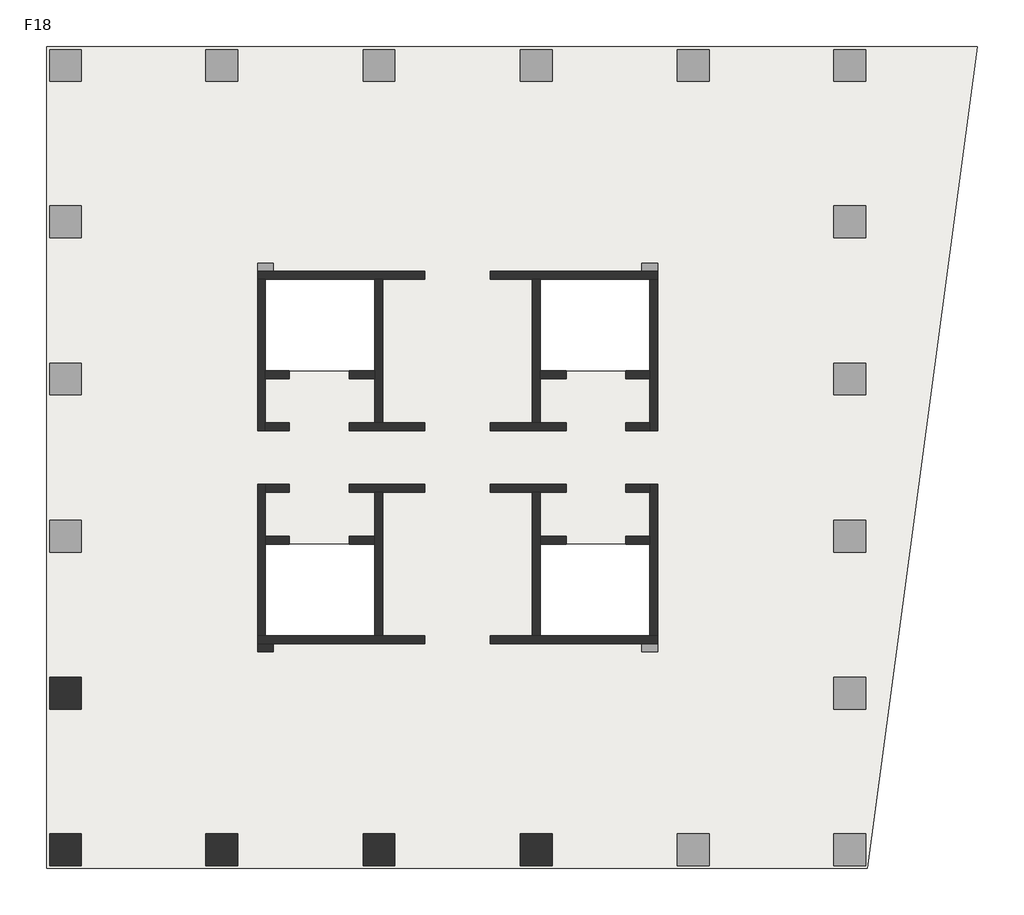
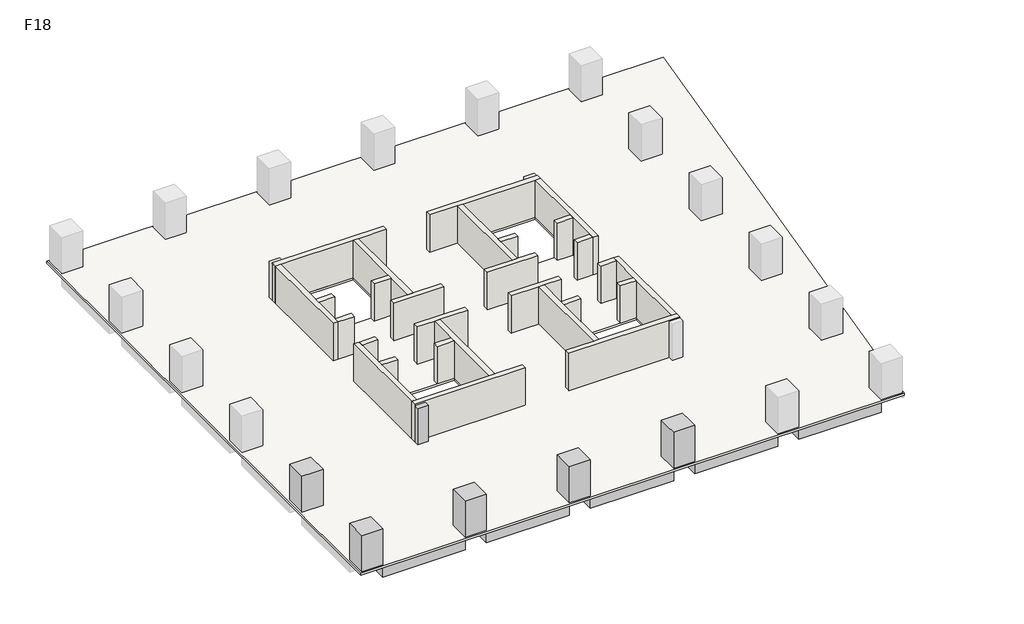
# One storey, part 1 of 2: 28 walls, 6 columns, 5 beams, 1 slab.
"""IFC4 building model written with IfcOpenShell, lengths in millimetres."""

from ifc_helpers import new_model, si_unit, frame, origin, place, context, project, spatial, polyline, outline, extrude, faceted_brep, element, save

model = new_model("IFC4")

# Units and contexts
model_context = context("Model", 3, world=origin())
ifc_project = project(units=[si_unit("LENGTHUNIT", "METRE", prefix="MILLI")], contexts=[model_context])

# Site, building, storey
site = spatial("IfcSite", under=ifc_project)
building = spatial("IfcBuilding", under=site)
storey = spatial("IfcBuildingStorey", under=building, Name="F18", Elevation=72000.0)

# Beams
placement = place(None, origin())
element("IfcBeam", 1, ObjectType="混凝土 - 矩形梁 : KL(5)-800x1000", at=placement, inside=storey, context=model_context, shape_type="SweptSolid", body=[
    extrude(outline(polyline([(-12472.6742169, -13948.9501342), (-12472.6742169, -13148.9501342), (-6222.6742169, -13148.9501342), (-6222.6742169, -13948.9501342), (-12472.6742169, -13948.9501342)])), frame((0.0, 0.0, 71000.0), z_axis=(0.0, 0.0, 1.0), x_axis=(1.0, 0.0, 0.0)), (0.0, 0.0, 1.0), 840.0),
    extrude(outline(polyline([(25327.3257831, -13148.9501342), (25327.3257831, -13948.9501342), (19077.3257831, -13948.9501342), (19077.3257831, -13148.9501342), (25327.3257831, -13148.9501342)])), frame((0.0, 0.0, 71000.0), z_axis=(0.0, 0.0, 1.0), x_axis=(1.0, 0.0, 0.0)), (0.0, 0.0, 1.0), 840.0),
    extrude(outline(polyline([(-4622.6742169, -13948.9501342), (-4622.6742169, -13148.9501342), (1677.3257831, -13148.9501342), (1677.3257831, -13948.9501342), (-4622.6742169, -13948.9501342)])), frame((0.0, 0.0, 71000.0), z_axis=(0.0, 0.0, 1.0), x_axis=(1.0, 0.0, 0.0)), (0.0, 0.0, 1.0), 840.0),
    extrude(outline(polyline([(3277.3257831, -13948.9501342), (3277.3257831, -13148.9501342), (9577.3257831, -13148.9501342), (9577.3257831, -13948.9501342), (3277.3257831, -13948.9501342)])), frame((0.0, 0.0, 71000.0), z_axis=(0.0, 0.0, 1.0), x_axis=(1.0, 0.0, 0.0)), (0.0, 0.0, 1.0), 840.0),
    extrude(outline(polyline([(11177.3257831, -13948.9501342), (11177.3257831, -13148.9501342), (17477.3257831, -13148.9501342), (17477.3257831, -13948.9501342), (11177.3257831, -13948.9501342)])), frame((0.0, 0.0, 71000.0), z_axis=(0.0, 0.0, 1.0), x_axis=(1.0, 0.0, 0.0)), (0.0, 0.0, 1.0), 840.0),
])
element("IfcBeam", 2, ObjectType="混凝土 - 矩形梁 : L1-800x500", at=placement, inside=storey, context=model_context, shape_type="Brep", body=[
    faceted_brep([(-12472.6742169, -5512.1353397, 71500.0), (-3746.9473979, -3341.556529, 71500.0), (-3173.6696907, -3198.9501342, 71500.0), (-3173.6696907, -3198.9501342, 71840.0), (-3746.9473979, -3341.556529, 71840.0), (-12472.6742169, -5512.1353397, 71840.0), (-3622.6742169, -3198.9501342, 71500.0), (-12472.6742169, -4687.7549784, 71500.0), (-3622.6742169, -2486.2624411, 71500.0), (-3622.6742169, -2798.9501342, 71500.0), (-12472.6742169, -4687.7549784, 71840.0), (-3622.6742169, -2486.2624411, 71840.0), (-3622.6742169, -3198.9501342, 71840.0)], [[[0, 1, 2, 3, 4, 5]], [[6, 2, 1, 0, 7, 8, 9]], [[8, 7, 10, 11]], [[2, 6, 12, 3]], [[9, 8, 11, 12, 6]], [[7, 0, 5, 10]], [[5, 4, 3, 12, 11, 10]]]),
])
element("IfcBeam", 3, ObjectType="混凝土 - 矩形梁 : L1-800x500", at=placement, inside=storey, context=model_context, shape_type="SweptSolid", body=[
    extrude(outline(polyline([(-3746.9473979, -3341.556529), (-3173.6696907, -3198.9501342), (-2898.7618154, -3198.9501342), (-4843.6893517, -12348.9501342), (-5661.5624638, -12348.9501342), (-3746.9473979, -3341.556529)])), frame((0.0, 0.0, 71500.0), z_axis=(0.0, 0.0, 1.0), x_axis=(1.0, 0.0, 0.0)), (0.0, 0.0, 1.0), 340.0),
])
element("IfcBeam", 4, ObjectType="混凝土 - 矩形梁 : L1-800x500", at=placement, inside=storey, context=model_context, shape_type="SweptSolid", body=[
    extrude(outline(polyline([(2877.3257831, -12348.9501342), (2077.3257831, -12348.9501342), (2077.3257831, -2798.9501342), (2877.3257831, -2798.9501342), (2877.3257831, -12348.9501342)])), frame((0.0, 0.0, 71500.0), z_axis=(0.0, 0.0, 1.0), x_axis=(1.0, 0.0, 0.0)), (0.0, 0.0, 1.0), 340.0),
])
element("IfcBeam", 5, ObjectType="混凝土 - 矩形梁 : L1-800x500", at=placement, inside=storey, context=model_context, shape_type="SweptSolid", body=[
    extrude(outline(polyline([(10777.3257831, -12348.9501342), (9977.3257831, -12348.9501342), (9977.3257831, -2798.9501342), (10777.3257831, -2798.9501342), (10777.3257831, -12348.9501342)])), frame((0.0, 0.0, 71500.0), z_axis=(0.0, 0.0, 1.0), x_axis=(1.0, 0.0, 0.0)), (0.0, 0.0, 1.0), 340.0),
])

# Columns
element("IfcColumn", 6, ObjectType="混凝土 - 矩形 - 柱 : Z1-1600x1600", at=placement, inside=storey, context=model_context, shape_type="Brep", body=[
    faceted_brep([(-12472.6742169, -4498.9501342, 72000.0), (-12472.6742169, -6098.9501342, 72000.0), (-14072.6742169, -6098.9501342, 72000.0), (-14072.6742169, -4498.9501342, 72000.0), (-12472.6742169, -4498.9501342, 74900.0), (-12472.6742169, -6098.9501342, 74900.0), (-13272.6742169, -6098.9501342, 74900.0), (-14072.6742169, -6098.9501342, 74900.0), (-14072.6742169, -6098.9501342, 74000.0), (-14072.6742169, -4498.9501342, 74900.0), (-14072.6742169, -4498.9501342, 74000.0), (-13272.6742169, -4498.9501342, 74900.0)], [[[0, 1, 2, 3]], [[1, 0, 4, 5]], [[2, 1, 5, 6, 7, 8]], [[3, 2, 8, 7, 9, 10]], [[0, 3, 10, 9, 11, 4]], [[5, 4, 11, 9, 7, 6]]]),
])
element("IfcColumn", 7, ObjectType="混凝土 - 矩形 - 柱 : Z1-1600x1600", at=placement, inside=storey, context=model_context, shape_type="SweptSolid", body=[
    extrude(outline(polyline([(-12472.6742169, -12348.9501342), (-12472.6742169, -13948.9501342), (-14072.6742169, -13948.9501342), (-14072.6742169, -12348.9501342), (-12472.6742169, -12348.9501342)])), frame((0.0, 0.0, 72000.0), z_axis=(0.0, 0.0, 1.0), x_axis=(1.0, 0.0, 0.0)), (0.0, 0.0, 1.0), 2900.0),
])
element("IfcColumn", 8, ObjectType="混凝土 - 矩形 - 柱 : Z1-1600x1600", at=placement, inside=storey, context=model_context, shape_type="Brep", body=[
    faceted_brep([(-4622.6742169, -12348.9501342, 72000.0), (-4622.6742169, -13948.9501342, 72000.0), (-6222.6742169, -13948.9501342, 72000.0), (-6222.6742169, -12348.9501342, 72000.0), (-4622.6742169, -12348.9501342, 74900.0), (-4622.6742169, -13148.9501342, 74900.0), (-4622.6742169, -13948.9501342, 74900.0), (-4622.6742169, -13948.9501342, 74000.0), (-6222.6742169, -13948.9501342, 74900.0), (-6222.6742169, -13948.9501342, 74000.0), (-6222.6742169, -13148.9501342, 74900.0), (-6222.6742169, -12348.9501342, 74900.0)], [[[0, 1, 2, 3]], [[1, 0, 4, 5, 6, 7]], [[2, 1, 7, 6, 8, 9]], [[3, 2, 9, 8, 10, 11]], [[0, 3, 11, 4]], [[6, 5, 4, 11, 10, 8]]]),
])
element("IfcColumn", 9, ObjectType="混凝土 - 矩形 - 柱 : Z1-1600x1600", at=placement, inside=storey, context=model_context, shape_type="Brep", body=[
    faceted_brep([(3277.3257831, -12348.9501342, 72000.0), (3277.3257831, -13948.9501342, 72000.0), (1677.3257831, -13948.9501342, 72000.0), (1677.3257831, -12348.9501342, 72000.0), (3277.3257831, -12348.9501342, 74900.0), (3277.3257831, -13148.9501342, 74900.0), (3277.3257831, -13948.9501342, 74900.0), (3277.3257831, -13948.9501342, 74000.0), (1677.3257831, -13948.9501342, 74900.0), (1677.3257831, -13948.9501342, 74000.0), (1677.3257831, -13148.9501342, 74900.0), (1677.3257831, -12348.9501342, 74900.0)], [[[0, 1, 2, 3]], [[1, 0, 4, 5, 6, 7]], [[2, 1, 7, 6, 8, 9]], [[3, 2, 9, 8, 10, 11]], [[0, 3, 11, 4]], [[6, 5, 4, 11, 10, 8]]]),
])
element("IfcColumn", 10, ObjectType="混凝土 - 矩形 - 柱 : Z1-1600x1600", at=placement, inside=storey, context=model_context, shape_type="Brep", body=[
    faceted_brep([(11177.3257831, -12348.9501342, 72000.0), (11177.3257831, -13948.9501342, 72000.0), (9577.3257831, -13948.9501342, 72000.0), (9577.3257831, -12348.9501342, 72000.0), (11177.3257831, -12348.9501342, 74900.0), (11177.3257831, -13148.9501342, 74900.0), (11177.3257831, -13948.9501342, 74900.0), (11177.3257831, -13948.9501342, 74000.0), (9577.3257831, -13948.9501342, 74900.0), (9577.3257831, -13948.9501342, 74000.0), (9577.3257831, -13148.9501342, 74900.0), (9577.3257831, -12348.9501342, 74900.0)], [[[0, 1, 2, 3]], [[1, 0, 4, 5, 6, 7]], [[2, 1, 7, 6, 8, 9]], [[3, 2, 9, 8, 10, 11]], [[0, 3, 11, 4]], [[6, 5, 4, 11, 10, 8]]]),
])
element("IfcColumn", 11, ObjectType="混凝土 - 矩形 - 柱 : Z2-800x800", at=placement, inside=storey, context=model_context, shape_type="SweptSolid", body=[
    extrude(outline(polyline([(-2822.6742169, -3198.9501342), (-3622.6742169, -3198.9501342), (-3622.6742169, -2798.9501342), (-2822.6742169, -2798.9501342), (-2822.6742169, -3198.9501342)])), frame((0.0, 0.0, 72000.0), z_axis=(0.0, 0.0, 1.0), x_axis=(1.0, 0.0, 0.0)), (0.0, 0.0, 1.0), 2900.0),
])

# Slab
element("IfcSlab", 12, ObjectType="LB-160", at=placement, inside=storey, context=model_context, shape_type="Brep", body=[
    faceted_brep([(32549.4477343, 27201.0498658, 71840.0), (32422.0087099, 26251.0498658, 71840.0), (27029.3257831, -13948.9501342, 71840.0), (27011.0393465, -14085.2672073, 71840.0), (-14222.6742169, -14085.2672073, 71840.0), (-14222.6742169, 27201.0498658, 71840.0), (2277.3257831, 15501.0498658, 71840.0), (-3222.6742169, 15501.0498658, 71840.0), (-3222.6742169, 10901.0498658, 71840.0), (2277.3257831, 10901.0498658, 71840.0), (2277.3257831, 2201.0498658, 71840.0), (-3222.6742169, 2201.0498658, 71840.0), (-3222.6742169, -2398.9501342, 71840.0), (2277.3257831, -2398.9501342, 71840.0), (16077.3257831, 2201.0498658, 71840.0), (10577.3257831, 2201.0498658, 71840.0), (10577.3257831, -2398.9501342, 71840.0), (16077.3257831, -2398.9501342, 71840.0), (16077.3257831, 15501.0498658, 71840.0), (10577.3257831, 15501.0498658, 71840.0), (10577.3257831, 10901.0498658, 71840.0), (16077.3257831, 10901.0498658, 71840.0), (32549.4477343, 27201.0498658, 72000.0), (-14222.6742169, 27201.0498658, 72000.0), (-14222.6742169, -14085.2672073, 72000.0), (27011.0393465, -14085.2672073, 72000.0), (2277.3257831, 15501.0498658, 72000.0), (2277.3257831, 10901.0498658, 72000.0), (-3222.6742169, 10901.0498658, 72000.0), (-3222.6742169, 15501.0498658, 72000.0), (2277.3257831, 2201.0498658, 72000.0), (2277.3257831, -2398.9501342, 72000.0), (-3222.6742169, -2398.9501342, 72000.0), (-3222.6742169, 2201.0498658, 72000.0), (16077.3257831, 2201.0498658, 72000.0), (16077.3257831, -2398.9501342, 72000.0), (10577.3257831, -2398.9501342, 72000.0), (10577.3257831, 2201.0498658, 72000.0), (16077.3257831, 15501.0498658, 72000.0), (16077.3257831, 10901.0498658, 72000.0), (10577.3257831, 10901.0498658, 72000.0), (10577.3257831, 15501.0498658, 72000.0)], [[[0, 1, 2, 3, 4, 5], [6, 7, 8, 9], [10, 11, 12, 13], [14, 15, 16, 17], [18, 19, 20, 21]], [[22, 23, 24, 25], [26, 27, 28, 29], [30, 31, 32, 33], [34, 35, 36, 37], [38, 39, 40, 41]], [[3, 2, 1, 0, 22, 25]], [[4, 3, 25, 24]], [[5, 4, 24, 23]], [[0, 5, 23, 22]], [[7, 6, 26, 29]], [[8, 7, 29, 28]], [[9, 8, 28, 27]], [[6, 9, 27, 26]], [[11, 10, 30, 33]], [[12, 11, 33, 32]], [[13, 12, 32, 31]], [[10, 13, 31, 30]], [[15, 14, 34, 37]], [[16, 15, 37, 36]], [[17, 16, 36, 35]], [[14, 17, 35, 34]], [[19, 18, 38, 41]], [[20, 19, 41, 40]], [[21, 20, 40, 39]], [[18, 21, 39, 38]]]),
])

# Walls
element("IfcWall", 13, ObjectType="剪力墙-400", at=placement, inside=storey, context=model_context, shape_type="Brep", body=[
    faceted_brep([(-3622.6742169, 15501.0498658, 72000.0), (-3222.6742169, 15501.0498658, 72000.0), (2277.3257831, 15501.0498658, 72000.0), (2677.3257831, 15501.0498658, 72000.0), (4777.3257831, 15501.0498658, 72000.0), (4777.3257831, 15501.0498658, 75000.0), (2677.3257831, 15501.0498658, 75000.0), (2277.3257831, 15501.0498658, 75000.0), (-3222.6742169, 15501.0498658, 75000.0), (-3622.6742169, 15501.0498658, 75000.0), (-3622.6742169, 15901.0498658, 72000.0), (-3622.6742169, 15901.0498658, 74900.0), (-3622.6742169, 15901.0498658, 75000.0), (4777.3257831, 15901.0498658, 75000.0), (4777.3257831, 15901.0498658, 72000.0), (-2822.6742169, 15901.0498658, 72000.0)], [[[0, 1, 2, 3, 4, 5, 6, 7, 8, 9]], [[10, 11, 12, 13, 14, 15]], [[4, 3, 2, 1, 0, 10, 15, 14]], [[5, 4, 14, 13]], [[9, 8, 7, 6, 5, 13, 12]], [[0, 9, 12, 11, 10]]]),
])
element("IfcWall", 14, ObjectType="剪力墙-400", at=placement, inside=storey, context=model_context, shape_type="Brep", body=[
    faceted_brep([(2277.3257831, 15501.0498658, 72000.0), (2277.3257831, 10901.0498658, 72000.0), (2277.3257831, 10501.0498658, 72000.0), (2277.3257831, 8301.0498658, 72000.0), (2277.3257831, 8301.0498658, 75000.0), (2277.3257831, 10501.0498658, 75000.0), (2277.3257831, 10901.0498658, 75000.0), (2277.3257831, 15501.0498658, 75000.0), (2677.3257831, 15501.0498658, 72000.0), (2677.3257831, 15501.0498658, 75000.0), (2677.3257831, 8301.0498658, 75000.0), (2677.3257831, 8301.0498658, 72000.0)], [[[0, 1, 2, 3, 4, 5, 6, 7]], [[8, 9, 10, 11]], [[3, 2, 1, 0, 8, 11]], [[7, 6, 5, 4, 10, 9]], [[0, 7, 9, 8]], [[4, 3, 11, 10]]]),
])
element("IfcWall", 15, ObjectType="剪力墙-400", at=placement, inside=storey, context=model_context, shape_type="Brep", body=[
    faceted_brep([(-3622.6742169, 15501.0498658, 72000.0), (-3622.6742169, 7901.0498658, 72000.0), (-3622.6742169, 7901.0498658, 75000.0), (-3622.6742169, 15501.0498658, 75000.0), (-3222.6742169, 15501.0498658, 72000.0), (-3222.6742169, 15501.0498658, 75000.0), (-3222.6742169, 10901.0498658, 75000.0), (-3222.6742169, 10501.0498658, 75000.0), (-3222.6742169, 8301.0498658, 75000.0), (-3222.6742169, 7901.0498658, 75000.0), (-3222.6742169, 7901.0498658, 72000.0), (-3222.6742169, 8301.0498658, 72000.0), (-3222.6742169, 10501.0498658, 72000.0), (-3222.6742169, 10901.0498658, 72000.0)], [[[0, 1, 2, 3]], [[4, 5, 6, 7, 8, 9, 10, 11, 12, 13]], [[1, 0, 4, 13, 12, 11, 10]], [[3, 2, 9, 8, 7, 6, 5]], [[0, 3, 5, 4]], [[2, 1, 10, 9]]]),
])
element("IfcWall", 16, ObjectType="剪力墙-400", at=placement, inside=storey, context=model_context, shape_type="SweptSolid", body=[
    extrude(outline(polyline([(-2022.6742169, 7901.0498658), (-3222.6742169, 7901.0498658), (-3222.6742169, 8301.0498658), (-2022.6742169, 8301.0498658), (-2022.6742169, 7901.0498658)])), frame((0.0, 0.0, 72000.0), z_axis=(0.0, 0.0, 1.0), x_axis=(1.0, 0.0, 0.0)), (0.0, 0.0, 1.0), 3000.0),
])
element("IfcWall", 17, ObjectType="剪力墙-400", at=placement, inside=storey, context=model_context, shape_type="Brep", body=[
    faceted_brep([(977.3257831, 7901.0498658, 72000.0), (4777.3257831, 7901.0498658, 72000.0), (4777.3257831, 7901.0498658, 75000.0), (977.3257831, 7901.0498658, 75000.0), (977.3257831, 8301.0498658, 72000.0), (977.3257831, 8301.0498658, 75000.0), (2277.3257831, 8301.0498658, 75000.0), (2677.3257831, 8301.0498658, 75000.0), (4777.3257831, 8301.0498658, 75000.0), (4777.3257831, 8301.0498658, 72000.0), (2677.3257831, 8301.0498658, 72000.0), (2277.3257831, 8301.0498658, 72000.0)], [[[0, 1, 2, 3]], [[4, 5, 6, 7, 8, 9, 10, 11]], [[1, 0, 4, 11, 10, 9]], [[2, 1, 9, 8]], [[3, 2, 8, 7, 6, 5]], [[0, 3, 5, 4]]]),
])
element("IfcWall", 18, ObjectType="剪力墙-400", at=placement, inside=storey, context=model_context, shape_type="SweptSolid", body=[
    extrude(outline(polyline([(-2022.6742169, 10501.0498658), (-3222.6742169, 10501.0498658), (-3222.6742169, 10901.0498658), (-2022.6742169, 10901.0498658), (-2022.6742169, 10501.0498658)])), frame((0.0, 0.0, 72000.0), z_axis=(0.0, 0.0, 1.0), x_axis=(1.0, 0.0, 0.0)), (0.0, 0.0, 1.0), 3000.0),
])
element("IfcWall", 19, ObjectType="剪力墙-400", at=placement, inside=storey, context=model_context, shape_type="SweptSolid", body=[
    extrude(outline(polyline([(2277.3257831, 10501.0498658), (977.3257831, 10501.0498658), (977.3257831, 10901.0498658), (2277.3257831, 10901.0498658), (2277.3257831, 10501.0498658)])), frame((0.0, 0.0, 72000.0), z_axis=(0.0, 0.0, 1.0), x_axis=(1.0, 0.0, 0.0)), (0.0, 0.0, 1.0), 3000.0),
])
element("IfcWall", 20, ObjectType="剪力墙-400", at=placement, inside=storey, context=model_context, shape_type="Brep", body=[
    faceted_brep([(16477.3257831, 15901.0498658, 72000.0), (15677.3257831, 15901.0498658, 72000.0), (8077.3257831, 15901.0498658, 72000.0), (8077.3257831, 15901.0498658, 75000.0), (16477.3257831, 15901.0498658, 75000.0), (16477.3257831, 15901.0498658, 74900.0), (16477.3257831, 15501.0498658, 72000.0), (16477.3257831, 15501.0498658, 75000.0), (16077.3257831, 15501.0498658, 75000.0), (10577.3257831, 15501.0498658, 75000.0), (10177.3257831, 15501.0498658, 75000.0), (8077.3257831, 15501.0498658, 75000.0), (8077.3257831, 15501.0498658, 72000.0), (10177.3257831, 15501.0498658, 72000.0), (10577.3257831, 15501.0498658, 72000.0), (16077.3257831, 15501.0498658, 72000.0)], [[[0, 1, 2, 3, 4, 5]], [[6, 7, 8, 9, 10, 11, 12, 13, 14, 15]], [[2, 1, 0, 6, 15, 14, 13, 12]], [[3, 2, 12, 11]], [[4, 3, 11, 10, 9, 8, 7]], [[0, 5, 4, 7, 6]]]),
])
element("IfcWall", 21, ObjectType="剪力墙-400", at=placement, inside=storey, context=model_context, shape_type="Brep", body=[
    faceted_brep([(10177.3257831, 15501.0498658, 72000.0), (10177.3257831, 8301.0498658, 72000.0), (10177.3257831, 8301.0498658, 75000.0), (10177.3257831, 15501.0498658, 75000.0), (10577.3257831, 15501.0498658, 72000.0), (10577.3257831, 15501.0498658, 75000.0), (10577.3257831, 10901.0498658, 75000.0), (10577.3257831, 10501.0498658, 75000.0), (10577.3257831, 8301.0498658, 75000.0), (10577.3257831, 8301.0498658, 72000.0), (10577.3257831, 10501.0498658, 72000.0), (10577.3257831, 10901.0498658, 72000.0)], [[[0, 1, 2, 3]], [[4, 5, 6, 7, 8, 9, 10, 11]], [[1, 0, 4, 11, 10, 9]], [[3, 2, 8, 7, 6, 5]], [[0, 3, 5, 4]], [[2, 1, 9, 8]]]),
])
element("IfcWall", 22, ObjectType="剪力墙-400", at=placement, inside=storey, context=model_context, shape_type="Brep", body=[
    faceted_brep([(16077.3257831, 15501.0498658, 72000.0), (16077.3257831, 10901.0498658, 72000.0), (16077.3257831, 10501.0498658, 72000.0), (16077.3257831, 8301.0498658, 72000.0), (16077.3257831, 7901.0498658, 72000.0), (16077.3257831, 7901.0498658, 75000.0), (16077.3257831, 8301.0498658, 75000.0), (16077.3257831, 10501.0498658, 75000.0), (16077.3257831, 10901.0498658, 75000.0), (16077.3257831, 15501.0498658, 75000.0), (16477.3257831, 15501.0498658, 72000.0), (16477.3257831, 15501.0498658, 75000.0), (16477.3257831, 7901.0498658, 75000.0), (16477.3257831, 7901.0498658, 72000.0)], [[[0, 1, 2, 3, 4, 5, 6, 7, 8, 9]], [[10, 11, 12, 13]], [[4, 3, 2, 1, 0, 10, 13]], [[9, 8, 7, 6, 5, 12, 11]], [[0, 9, 11, 10]], [[5, 4, 13, 12]]]),
])
element("IfcWall", 23, ObjectType="剪力墙-400", at=placement, inside=storey, context=model_context, shape_type="SweptSolid", body=[
    extrude(outline(polyline([(14877.3257831, 8301.0498658), (16077.3257831, 8301.0498658), (16077.3257831, 7901.0498658), (14877.3257831, 7901.0498658), (14877.3257831, 8301.0498658)])), frame((0.0, 0.0, 72000.0), z_axis=(0.0, 0.0, 1.0), x_axis=(1.0, 0.0, 0.0)), (0.0, 0.0, 1.0), 3000.0),
])
element("IfcWall", 24, ObjectType="剪力墙-400", at=placement, inside=storey, context=model_context, shape_type="Brep", body=[
    faceted_brep([(11877.3257831, 8301.0498658, 72000.0), (10577.3257831, 8301.0498658, 72000.0), (10177.3257831, 8301.0498658, 72000.0), (8077.3257831, 8301.0498658, 72000.0), (8077.3257831, 8301.0498658, 75000.0), (10177.3257831, 8301.0498658, 75000.0), (10577.3257831, 8301.0498658, 75000.0), (11877.3257831, 8301.0498658, 75000.0), (11877.3257831, 7901.0498658, 72000.0), (11877.3257831, 7901.0498658, 75000.0), (8077.3257831, 7901.0498658, 75000.0), (8077.3257831, 7901.0498658, 72000.0)], [[[0, 1, 2, 3, 4, 5, 6, 7]], [[8, 9, 10, 11]], [[3, 2, 1, 0, 8, 11]], [[4, 3, 11, 10]], [[7, 6, 5, 4, 10, 9]], [[0, 7, 9, 8]]]),
])
element("IfcWall", 25, ObjectType="剪力墙-400", at=placement, inside=storey, context=model_context, shape_type="SweptSolid", body=[
    extrude(outline(polyline([(14877.3257831, 10901.0498658), (16077.3257831, 10901.0498658), (16077.3257831, 10501.0498658), (14877.3257831, 10501.0498658), (14877.3257831, 10901.0498658)])), frame((0.0, 0.0, 72000.0), z_axis=(0.0, 0.0, 1.0), x_axis=(1.0, 0.0, 0.0)), (0.0, 0.0, 1.0), 3000.0),
])
element("IfcWall", 26, ObjectType="剪力墙-400", at=placement, inside=storey, context=model_context, shape_type="SweptSolid", body=[
    extrude(outline(polyline([(10577.3257831, 10901.0498658), (11877.3257831, 10901.0498658), (11877.3257831, 10501.0498658), (10577.3257831, 10501.0498658), (10577.3257831, 10901.0498658)])), frame((0.0, 0.0, 72000.0), z_axis=(0.0, 0.0, 1.0), x_axis=(1.0, 0.0, 0.0)), (0.0, 0.0, 1.0), 3000.0),
])
element("IfcWall", 27, ObjectType="剪力墙-400", at=placement, inside=storey, context=model_context, shape_type="Brep", body=[
    faceted_brep([(-3622.6742169, -2798.9501342, 72000.0), (-2822.6742169, -2798.9501342, 72000.0), (4777.3257831, -2798.9501342, 72000.0), (4777.3257831, -2798.9501342, 75000.0), (-3622.6742169, -2798.9501342, 75000.0), (-3622.6742169, -2798.9501342, 74900.0), (-3622.6742169, -2398.9501342, 72000.0), (-3622.6742169, -2398.9501342, 75000.0), (-3222.6742169, -2398.9501342, 75000.0), (2277.3257831, -2398.9501342, 75000.0), (2677.3257831, -2398.9501342, 75000.0), (4777.3257831, -2398.9501342, 75000.0), (4777.3257831, -2398.9501342, 72000.0), (2677.3257831, -2398.9501342, 72000.0), (2277.3257831, -2398.9501342, 72000.0), (-3222.6742169, -2398.9501342, 72000.0)], [[[0, 1, 2, 3, 4, 5]], [[6, 7, 8, 9, 10, 11, 12, 13, 14, 15]], [[2, 1, 0, 6, 15, 14, 13, 12]], [[3, 2, 12, 11]], [[4, 3, 11, 10, 9, 8, 7]], [[0, 5, 4, 7, 6]]]),
])
element("IfcWall", 28, ObjectType="剪力墙-400", at=placement, inside=storey, context=model_context, shape_type="Brep", body=[
    faceted_brep([(2677.3257831, -2398.9501342, 72000.0), (2677.3257831, 4801.0498658, 72000.0), (2677.3257831, 4801.0498658, 75000.0), (2677.3257831, -2398.9501342, 75000.0), (2277.3257831, -2398.9501342, 72000.0), (2277.3257831, -2398.9501342, 75000.0), (2277.3257831, 2201.0498658, 75000.0), (2277.3257831, 2601.0498658, 75000.0), (2277.3257831, 4801.0498658, 75000.0), (2277.3257831, 4801.0498658, 72000.0), (2277.3257831, 2601.0498658, 72000.0), (2277.3257831, 2201.0498658, 72000.0)], [[[0, 1, 2, 3]], [[4, 5, 6, 7, 8, 9, 10, 11]], [[1, 0, 4, 11, 10, 9]], [[3, 2, 8, 7, 6, 5]], [[0, 3, 5, 4]], [[2, 1, 9, 8]]]),
])
element("IfcWall", 29, ObjectType="剪力墙-400", at=placement, inside=storey, context=model_context, shape_type="Brep", body=[
    faceted_brep([(-3222.6742169, -2398.9501342, 72000.0), (-3222.6742169, 2201.0498658, 72000.0), (-3222.6742169, 2601.0498658, 72000.0), (-3222.6742169, 4801.0498658, 72000.0), (-3222.6742169, 5201.0498658, 72000.0), (-3222.6742169, 5201.0498658, 75000.0), (-3222.6742169, 4801.0498658, 75000.0), (-3222.6742169, 2601.0498658, 75000.0), (-3222.6742169, 2201.0498658, 75000.0), (-3222.6742169, -2398.9501342, 75000.0), (-3622.6742169, -2398.9501342, 72000.0), (-3622.6742169, -2398.9501342, 75000.0), (-3622.6742169, 5201.0498658, 75000.0), (-3622.6742169, 5201.0498658, 72000.0)], [[[0, 1, 2, 3, 4, 5, 6, 7, 8, 9]], [[10, 11, 12, 13]], [[4, 3, 2, 1, 0, 10, 13]], [[9, 8, 7, 6, 5, 12, 11]], [[0, 9, 11, 10]], [[5, 4, 13, 12]]]),
])
element("IfcWall", 30, ObjectType="剪力墙-400", at=placement, inside=storey, context=model_context, shape_type="SweptSolid", body=[
    extrude(outline(polyline([(-2022.6742169, 4801.0498658), (-3222.6742169, 4801.0498658), (-3222.6742169, 5201.0498658), (-2022.6742169, 5201.0498658), (-2022.6742169, 4801.0498658)])), frame((0.0, 0.0, 72000.0), z_axis=(0.0, 0.0, 1.0), x_axis=(1.0, 0.0, 0.0)), (0.0, 0.0, 1.0), 3000.0),
])
element("IfcWall", 31, ObjectType="剪力墙-400", at=placement, inside=storey, context=model_context, shape_type="Brep", body=[
    faceted_brep([(977.3257831, 4801.0498658, 72000.0), (2277.3257831, 4801.0498658, 72000.0), (2677.3257831, 4801.0498658, 72000.0), (4777.3257831, 4801.0498658, 72000.0), (4777.3257831, 4801.0498658, 75000.0), (2677.3257831, 4801.0498658, 75000.0), (2277.3257831, 4801.0498658, 75000.0), (977.3257831, 4801.0498658, 75000.0), (977.3257831, 5201.0498658, 72000.0), (977.3257831, 5201.0498658, 75000.0), (4777.3257831, 5201.0498658, 75000.0), (4777.3257831, 5201.0498658, 72000.0)], [[[0, 1, 2, 3, 4, 5, 6, 7]], [[8, 9, 10, 11]], [[3, 2, 1, 0, 8, 11]], [[4, 3, 11, 10]], [[7, 6, 5, 4, 10, 9]], [[0, 7, 9, 8]]]),
])
element("IfcWall", 32, ObjectType="剪力墙-400", at=placement, inside=storey, context=model_context, shape_type="SweptSolid", body=[
    extrude(outline(polyline([(-2022.6742169, 2201.0498658), (-3222.6742169, 2201.0498658), (-3222.6742169, 2601.0498658), (-2022.6742169, 2601.0498658), (-2022.6742169, 2201.0498658)])), frame((0.0, 0.0, 72000.0), z_axis=(0.0, 0.0, 1.0), x_axis=(1.0, 0.0, 0.0)), (0.0, 0.0, 1.0), 3000.0),
])
element("IfcWall", 33, ObjectType="剪力墙-400", at=placement, inside=storey, context=model_context, shape_type="SweptSolid", body=[
    extrude(outline(polyline([(2277.3257831, 2201.0498658), (977.3257831, 2201.0498658), (977.3257831, 2601.0498658), (2277.3257831, 2601.0498658), (2277.3257831, 2201.0498658)])), frame((0.0, 0.0, 72000.0), z_axis=(0.0, 0.0, 1.0), x_axis=(1.0, 0.0, 0.0)), (0.0, 0.0, 1.0), 3000.0),
])
element("IfcWall", 34, ObjectType="剪力墙-400", at=placement, inside=storey, context=model_context, shape_type="Brep", body=[
    faceted_brep([(16477.3257831, -2398.9501342, 72000.0), (16077.3257831, -2398.9501342, 72000.0), (10577.3257831, -2398.9501342, 72000.0), (10177.3257831, -2398.9501342, 72000.0), (8077.3257831, -2398.9501342, 72000.0), (8077.3257831, -2398.9501342, 75000.0), (10177.3257831, -2398.9501342, 75000.0), (10577.3257831, -2398.9501342, 75000.0), (16077.3257831, -2398.9501342, 75000.0), (16477.3257831, -2398.9501342, 75000.0), (16477.3257831, -2798.9501342, 72000.0), (16477.3257831, -2798.9501342, 74900.0), (16477.3257831, -2798.9501342, 75000.0), (8077.3257831, -2798.9501342, 75000.0), (8077.3257831, -2798.9501342, 72000.0), (15677.3257831, -2798.9501342, 72000.0)], [[[0, 1, 2, 3, 4, 5, 6, 7, 8, 9]], [[10, 11, 12, 13, 14, 15]], [[4, 3, 2, 1, 0, 10, 15, 14]], [[5, 4, 14, 13]], [[9, 8, 7, 6, 5, 13, 12]], [[0, 9, 12, 11, 10]]]),
])
element("IfcWall", 35, ObjectType="剪力墙-400", at=placement, inside=storey, context=model_context, shape_type="Brep", body=[
    faceted_brep([(10577.3257831, -2398.9501342, 72000.0), (10577.3257831, 2201.0498658, 72000.0), (10577.3257831, 2601.0498658, 72000.0), (10577.3257831, 4801.0498658, 72000.0), (10577.3257831, 4801.0498658, 75000.0), (10577.3257831, 2601.0498658, 75000.0), (10577.3257831, 2201.0498658, 75000.0), (10577.3257831, -2398.9501342, 75000.0), (10177.3257831, -2398.9501342, 72000.0), (10177.3257831, -2398.9501342, 75000.0), (10177.3257831, 4801.0498658, 75000.0), (10177.3257831, 4801.0498658, 72000.0)], [[[0, 1, 2, 3, 4, 5, 6, 7]], [[8, 9, 10, 11]], [[3, 2, 1, 0, 8, 11]], [[7, 6, 5, 4, 10, 9]], [[0, 7, 9, 8]], [[4, 3, 11, 10]]]),
])
element("IfcWall", 36, ObjectType="剪力墙-400", at=placement, inside=storey, context=model_context, shape_type="Brep", body=[
    faceted_brep([(16477.3257831, -2398.9501342, 72000.0), (16477.3257831, 5201.0498658, 72000.0), (16477.3257831, 5201.0498658, 75000.0), (16477.3257831, -2398.9501342, 75000.0), (16077.3257831, -2398.9501342, 72000.0), (16077.3257831, -2398.9501342, 75000.0), (16077.3257831, 2201.0498658, 75000.0), (16077.3257831, 2601.0498658, 75000.0), (16077.3257831, 4801.0498658, 75000.0), (16077.3257831, 5201.0498658, 75000.0), (16077.3257831, 5201.0498658, 72000.0), (16077.3257831, 4801.0498658, 72000.0), (16077.3257831, 2601.0498658, 72000.0), (16077.3257831, 2201.0498658, 72000.0)], [[[0, 1, 2, 3]], [[4, 5, 6, 7, 8, 9, 10, 11, 12, 13]], [[1, 0, 4, 13, 12, 11, 10]], [[3, 2, 9, 8, 7, 6, 5]], [[0, 3, 5, 4]], [[2, 1, 10, 9]]]),
])
element("IfcWall", 37, ObjectType="剪力墙-400", at=placement, inside=storey, context=model_context, shape_type="SweptSolid", body=[
    extrude(outline(polyline([(14877.3257831, 5201.0498658), (16077.3257831, 5201.0498658), (16077.3257831, 4801.0498658), (14877.3257831, 4801.0498658), (14877.3257831, 5201.0498658)])), frame((0.0, 0.0, 72000.0), z_axis=(0.0, 0.0, 1.0), x_axis=(1.0, 0.0, 0.0)), (0.0, 0.0, 1.0), 3000.0),
])
element("IfcWall", 38, ObjectType="剪力墙-400", at=placement, inside=storey, context=model_context, shape_type="Brep", body=[
    faceted_brep([(11877.3257831, 5201.0498658, 72000.0), (8077.3257831, 5201.0498658, 72000.0), (8077.3257831, 5201.0498658, 75000.0), (11877.3257831, 5201.0498658, 75000.0), (11877.3257831, 4801.0498658, 72000.0), (11877.3257831, 4801.0498658, 75000.0), (10577.3257831, 4801.0498658, 75000.0), (10177.3257831, 4801.0498658, 75000.0), (8077.3257831, 4801.0498658, 75000.0), (8077.3257831, 4801.0498658, 72000.0), (10177.3257831, 4801.0498658, 72000.0), (10577.3257831, 4801.0498658, 72000.0)], [[[0, 1, 2, 3]], [[4, 5, 6, 7, 8, 9, 10, 11]], [[1, 0, 4, 11, 10, 9]], [[2, 1, 9, 8]], [[3, 2, 8, 7, 6, 5]], [[0, 3, 5, 4]]]),
])
element("IfcWall", 39, ObjectType="剪力墙-400", at=placement, inside=storey, context=model_context, shape_type="SweptSolid", body=[
    extrude(outline(polyline([(14877.3257831, 2601.0498658), (16077.3257831, 2601.0498658), (16077.3257831, 2201.0498658), (14877.3257831, 2201.0498658), (14877.3257831, 2601.0498658)])), frame((0.0, 0.0, 72000.0), z_axis=(0.0, 0.0, 1.0), x_axis=(1.0, 0.0, 0.0)), (0.0, 0.0, 1.0), 3000.0),
])
element("IfcWall", 40, ObjectType="剪力墙-400", at=placement, inside=storey, context=model_context, shape_type="SweptSolid", body=[
    extrude(outline(polyline([(10577.3257831, 2601.0498658), (11877.3257831, 2601.0498658), (11877.3257831, 2201.0498658), (10577.3257831, 2201.0498658), (10577.3257831, 2601.0498658)])), frame((0.0, 0.0, 72000.0), z_axis=(0.0, 0.0, 1.0), x_axis=(1.0, 0.0, 0.0)), (0.0, 0.0, 1.0), 3000.0),
])

save(model, "model.ifc")
